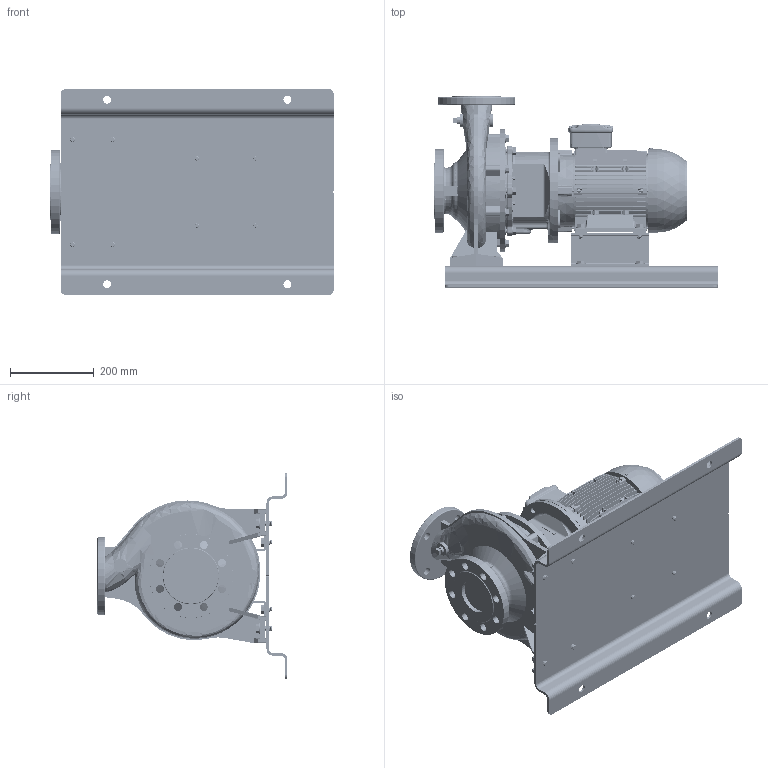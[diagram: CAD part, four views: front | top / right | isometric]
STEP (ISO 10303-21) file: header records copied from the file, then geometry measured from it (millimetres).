
FILE_DESCRIPTION (( 'STEP AP214' ), '1' );
FILE_NAME ('GSD4 65-200_2.2 & 3.0_(100L)_W21_BP.STEP', '2026-05-26T01:25:29', ( '' ), ( '' ), 'SwSTEP 2.0', 'SolidWorks 2024', '' );
FILE_SCHEMA (( 'AUTOMOTIVE_DESIGN' ));
Length unit declared in the file: millimetre
Products named in the file (10): GSD4 65-200_2.2 & 3.0_(100L)_W21_BP; 140 x 80 - 271472220; Parametric bolt_SFT-A253B; 100L ALIE3_W21T_B35; Parametric Flat Washer_M10; Parametric Flat Washer_M12; N5S5 GSDA-552 F1-1832915-00; Parametric bolt_SFT-A299B; Parametric bolt_SFT-A249B; 65-200-100L_ﾃﾞﾌｫﾙﾄ
Assembly tree (29 placements, depth 2):
  GSD4 65-200_2.2 & 3.0_(100L)_W21_BP
    65-200-100L_ﾃﾞﾌｫﾙﾄ
    100L ALIE3_W21T_B35
    140 x 80 - 271472220  x2
    N5S5 GSDA-552 F1-1832915-00
    Parametric bolt_SFT-A253B  x4
    Parametric bolt_SFT-A249B  x4
    Parametric bolt_SFT-A299B  x4
    Parametric Flat Washer_M12  x4
    Parametric Flat Washer_M10  x8
Bounding box: 675 x 455 x 490 mm (x, y, z)
Volume: 21125376.4 mm3; surface area: 2291598.4 mm2
Topology: 32 solids, 32 shells, 4448 faces, 11600 edges, 7464 vertices
Faces by surface type: plane 2417, cylinder 1220, torus 316, bspline 239, cone 238, sphere 18
Entity records: 191038 total; most frequent: CARTESIAN_POINT 96582, ORIENTED_EDGE 20450, DIRECTION 18291, EDGE_CURVE 10225, VERTEX_POINT 6584, LINE 6297, VECTOR 6297, AXIS2_PLACEMENT_3D 5997
